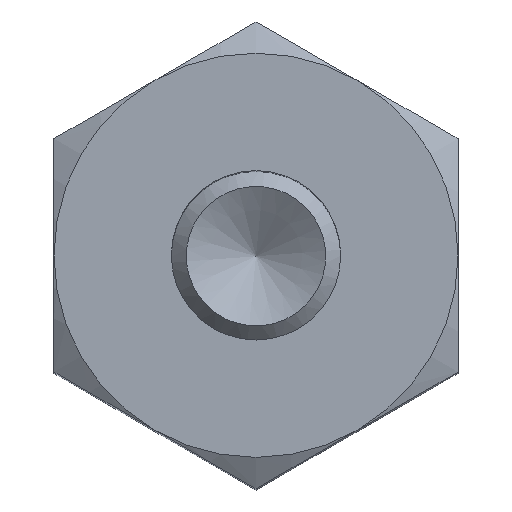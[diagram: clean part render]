
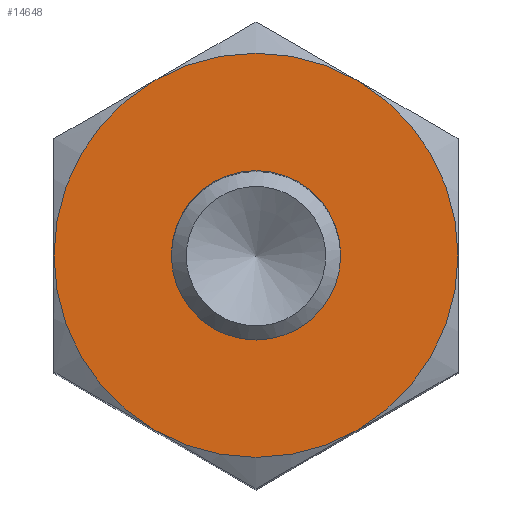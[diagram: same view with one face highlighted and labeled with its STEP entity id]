
A CAD part, top view. The second image highlights one B-rep face of the part: STEP entity #14648.
In plain terms, the highlighted planar face has unit normal (0, 0, 1).
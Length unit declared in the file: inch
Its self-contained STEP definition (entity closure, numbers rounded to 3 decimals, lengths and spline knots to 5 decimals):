
#37=CIRCLE('',#15165,0.3125);
#38=CIRCLE('',#15167,0.3125);
#39=CIRCLE('',#15169,0.3125);
#40=CIRCLE('',#15171,0.3125);
#41=CIRCLE('',#15173,0.3125);
#42=CIRCLE('',#15175,0.3125);
#44=CIRCLE('',#15181,0.131);
#194=FACE_BOUND('',#2148,.T.);
#1280=FACE_OUTER_BOUND('',#2147,.T.);
#2147=EDGE_LOOP('',(#13277,#13278,#13279,#13280,#13281,#13282));
#2148=EDGE_LOOP('',(#13283));
#6987=VERTEX_POINT('',#26888);
#6999=VERTEX_POINT('',#26969);
#7000=VERTEX_POINT('',#26973);
#7001=VERTEX_POINT('',#26984);
#7003=VERTEX_POINT('',#26994);
#7005=VERTEX_POINT('',#27004);
#7008=VERTEX_POINT('',#27026);
#9082=EDGE_CURVE('',#6999,#7000,#37,.T.);
#9084=EDGE_CURVE('',#6987,#6999,#38,.T.);
#9086=EDGE_CURVE('',#7001,#6987,#39,.T.);
#9088=EDGE_CURVE('',#7003,#7001,#40,.T.);
#9091=EDGE_CURVE('',#7005,#7003,#41,.T.);
#9094=EDGE_CURVE('',#7000,#7005,#42,.T.);
#9099=EDGE_CURVE('',#7008,#7008,#44,.T.);
#13277=ORIENTED_EDGE('',*,*,#9094,.T.);
#13278=ORIENTED_EDGE('',*,*,#9091,.T.);
#13279=ORIENTED_EDGE('',*,*,#9088,.T.);
#13280=ORIENTED_EDGE('',*,*,#9086,.T.);
#13281=ORIENTED_EDGE('',*,*,#9084,.T.);
#13282=ORIENTED_EDGE('',*,*,#9082,.T.);
#13283=ORIENTED_EDGE('',*,*,#9099,.T.);
#13817=PLANE('',#15190);
#14648=ADVANCED_FACE('',(#1280,#194),#13817,.T.);
#15165=AXIS2_PLACEMENT_3D('',#26977,#17506,#17507);
#15167=AXIS2_PLACEMENT_3D('',#26982,#17510,#17511);
#15169=AXIS2_PLACEMENT_3D('',#26988,#17514,#17515);
#15171=AXIS2_PLACEMENT_3D('',#26995,#17518,#17519);
#15173=AXIS2_PLACEMENT_3D('',#27005,#17522,#17523);
#15175=AXIS2_PLACEMENT_3D('',#27014,#17526,#17527);
#15181=AXIS2_PLACEMENT_3D('',#27027,#17540,#17541);
#15190=AXIS2_PLACEMENT_3D('',#27040,#17560,#17561);
#17506=DIRECTION('center_axis',(0.,0.,1.));
#17507=DIRECTION('ref_axis',(0.,1.,0.));
#17510=DIRECTION('center_axis',(0.,0.,1.));
#17511=DIRECTION('ref_axis',(0.,1.,0.));
#17514=DIRECTION('center_axis',(0.,0.,1.));
#17515=DIRECTION('ref_axis',(0.,1.,0.));
#17518=DIRECTION('center_axis',(0.,0.,1.));
#17519=DIRECTION('ref_axis',(0.,1.,0.));
#17522=DIRECTION('center_axis',(0.,0.,1.));
#17523=DIRECTION('ref_axis',(0.,1.,0.));
#17526=DIRECTION('center_axis',(0.,0.,1.));
#17527=DIRECTION('ref_axis',(0.,1.,0.));
#17540=DIRECTION('center_axis',(0.,0.,-1.));
#17541=DIRECTION('ref_axis',(1.,0.,0.));
#17560=DIRECTION('center_axis',(0.,0.,1.));
#17561=DIRECTION('ref_axis',(1.,0.,0.));
#26888=CARTESIAN_POINT('',(-0.98425,0.38632,1.25));
#26969=CARTESIAN_POINT('',(-0.828,0.11569,1.25));
#26973=CARTESIAN_POINT('',(-0.5155,0.11569,1.25));
#26977=CARTESIAN_POINT('Origin',(-0.67175,0.38632,1.25));
#26982=CARTESIAN_POINT('Origin',(-0.67175,0.38632,1.25));
#26984=CARTESIAN_POINT('',(-0.828,0.65695,1.25));
#26988=CARTESIAN_POINT('Origin',(-0.67175,0.38632,1.25));
#26994=CARTESIAN_POINT('',(-0.5155,0.65695,1.25));
#26995=CARTESIAN_POINT('Origin',(-0.67175,0.38632,1.25));
#27004=CARTESIAN_POINT('',(-0.35925,0.38632,1.25));
#27005=CARTESIAN_POINT('Origin',(-0.67175,0.38632,1.25));
#27014=CARTESIAN_POINT('Origin',(-0.67175,0.38632,1.25));
#27026=CARTESIAN_POINT('',(-0.54075,0.38632,1.25));
#27027=CARTESIAN_POINT('Origin',(-0.67175,0.38632,1.25));
#27040=CARTESIAN_POINT('Origin',(-0.67175,0.38632,1.25));
